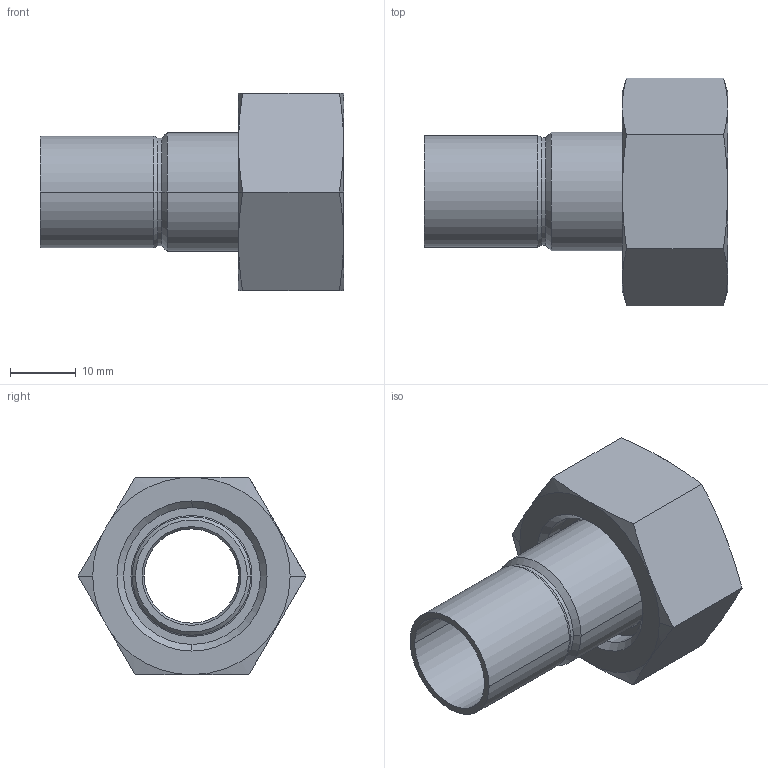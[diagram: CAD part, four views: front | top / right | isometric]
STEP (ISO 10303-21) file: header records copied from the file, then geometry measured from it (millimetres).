
FILE_DESCRIPTION((''),'2;1');
FILE_NAME('G:\SANHA-TERNAT\Technik\Public\Bouwmaten\z-maattekeningen 3D\5000\5359G\15359G1534.stp','2007-05-24T14:44:23',('vdvijverd'),(''),'Autodesk Inventor 8','Autodesk Inventor 8','');
FILE_SCHEMA(('AUTOMOTIVE_DESIGN { 1 0 10303 214 1 1 1 1 }'));
Length unit declared in the file: millimetre
Products named in the file (4): 15359G1534; 5359G1534; centel_34; BB1A006_34
Assembly tree (3 placements, depth 2):
  15359G1534
    5359G1534
    centel_34
    BB1A006_34
Bounding box: 46.1 x 34.64 x 30 mm (x, y, z)
Volume: 7853.4 mm3; surface area: 8300.7 mm2
Topology: 3 solids, 3 shells, 66 faces, 155 edges, 97 vertices
Faces by surface type: cone 22, cylinder 20, plane 14, torus 6, bspline 4
Entity records: 2143 total; most frequent: CARTESIAN_POINT 509, DIRECTION 356, ORIENTED_EDGE 310, EDGE_CURVE 155, AXIS2_PLACEMENT_3D 154, VERTEX_POINT 97, CIRCLE 85, EDGE_LOOP 74
